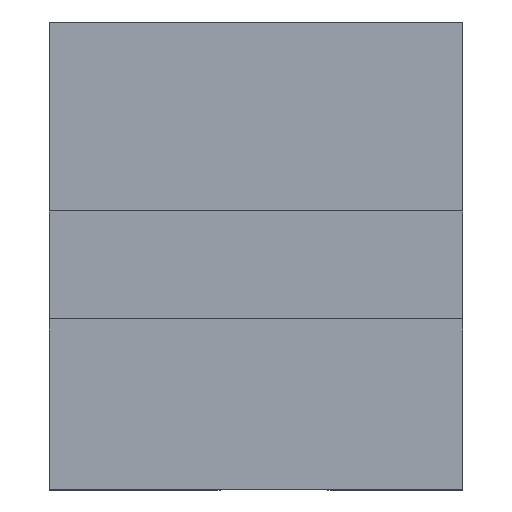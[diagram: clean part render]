
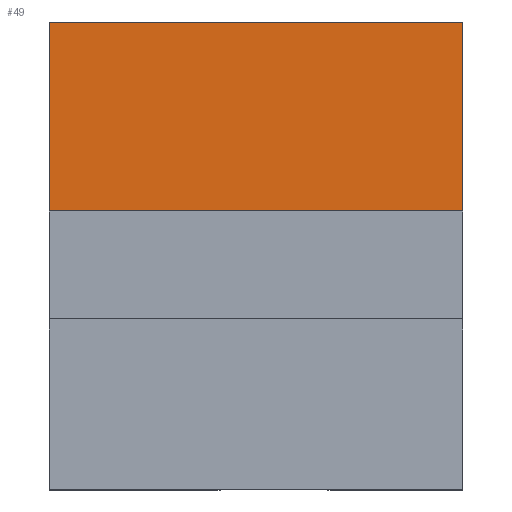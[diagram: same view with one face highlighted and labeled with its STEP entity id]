
A CAD part, top view. The second image highlights one B-rep face of the part: STEP entity #49.
In plain terms, the highlighted planar face has unit normal (0, 0, 1).
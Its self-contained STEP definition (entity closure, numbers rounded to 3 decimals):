
#27 = EDGE_LOOP ( 'NONE', ( #50, #54, #57, #67 ) ) ;
#49 = ADVANCED_FACE ( 'NONE', ( #102 ), #101, .F. ) ;
#50 = ORIENTED_EDGE ( 'NONE', *, *, #51, .T. ) ;
#51 = EDGE_CURVE ( 'NONE', #52, #53, #96, .T. ) ;
#52 = VERTEX_POINT ( 'NONE', #92 ) ;
#53 = VERTEX_POINT ( 'NONE', #91 ) ;
#54 = ORIENTED_EDGE ( 'NONE', *, *, #55, .F. ) ;
#55 = EDGE_CURVE ( 'NONE', #56, #53, #90, .T. ) ;
#56 = VERTEX_POINT ( 'NONE', #86 ) ;
#57 = ORIENTED_EDGE ( 'NONE', *, *, #58, .T. ) ;
#58 = EDGE_CURVE ( 'NONE', #56, #71, #267, .T. ) ;
#67 = ORIENTED_EDGE ( 'NONE', *, *, #74, .T. ) ;
#71 = VERTEX_POINT ( 'NONE', #269 ) ;
#74 = EDGE_CURVE ( 'NONE', #71, #52, #262, .T. ) ;
#86 = CARTESIAN_POINT ( 'NONE',  ( 460., 310., 60. ) ) ;
#87 = DIRECTION ( 'NONE',  ( -1., 0., 0. ) ) ;
#88 = VECTOR ( 'NONE', #87, 1000. ) ;
#89 = CARTESIAN_POINT ( 'NONE',  ( 0., 310., 60. ) ) ;
#90 = LINE ( 'NONE', #89, #88 ) ;
#91 = CARTESIAN_POINT ( 'NONE',  ( 0., 310., 60. ) ) ;
#92 = CARTESIAN_POINT ( 'NONE',  ( 0., 520., 60. ) ) ;
#93 = DIRECTION ( 'NONE',  ( 0., -1., 0. ) ) ;
#94 = VECTOR ( 'NONE', #93, 1000. ) ;
#95 = CARTESIAN_POINT ( 'NONE',  ( 0., 0., 60. ) ) ;
#96 = LINE ( 'NONE', #95, #94 ) ;
#97 = DIRECTION ( 'NONE',  ( -1., 0., 0. ) ) ;
#98 = DIRECTION ( 'NONE',  ( 0., 0., -1. ) ) ;
#99 = CARTESIAN_POINT ( 'NONE',  ( 0., 520., 60. ) ) ;
#100 = AXIS2_PLACEMENT_3D ( 'NONE', #99, #98, #97 ) ;
#101 = PLANE ( 'NONE',  #100 ) ;
#102 = FACE_OUTER_BOUND ( 'NONE', #27, .T. ) ;
#254 = VECTOR ( 'NONE', #294, 1000. ) ;
#259 = DIRECTION ( 'NONE',  ( -1., 0., 0. ) ) ;
#260 = VECTOR ( 'NONE', #259, 1000. ) ;
#261 = CARTESIAN_POINT ( 'NONE',  ( 0., 520., 60. ) ) ;
#262 = LINE ( 'NONE', #261, #260 ) ;
#267 = LINE ( 'NONE', #268, #254 ) ;
#268 = CARTESIAN_POINT ( 'NONE',  ( 460., 0., 60. ) ) ;
#269 = CARTESIAN_POINT ( 'NONE',  ( 460., 520., 60. ) ) ;
#294 = DIRECTION ( 'NONE',  ( 0., 1., 0. ) ) ;
